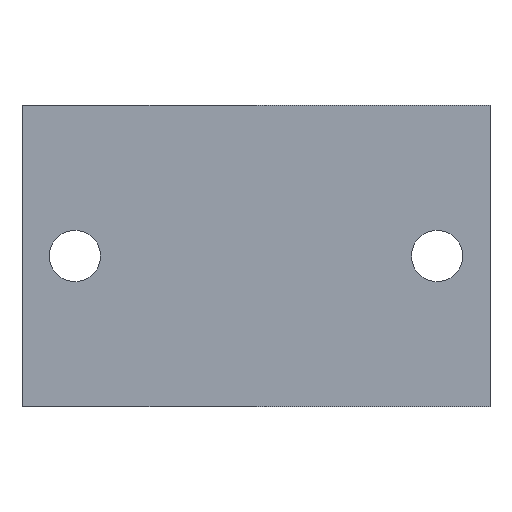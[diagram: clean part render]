
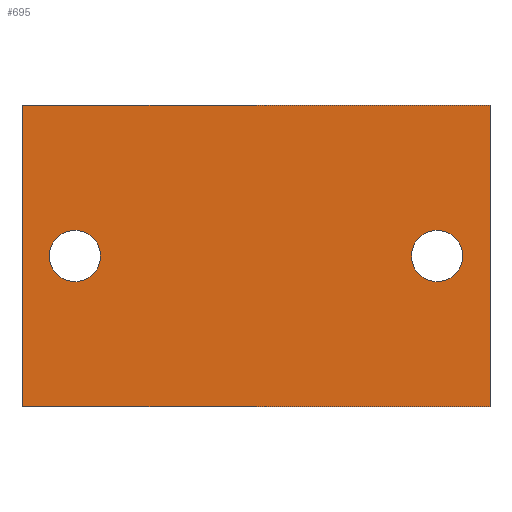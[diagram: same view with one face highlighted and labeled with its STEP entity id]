
A CAD part, front view. The second image highlights one B-rep face of the part: STEP entity #695.
In plain terms, the highlighted planar face has unit normal (0, -1, 0).
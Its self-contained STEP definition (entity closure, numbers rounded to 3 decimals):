
#15 = FACE_BOUND ( 'NONE', #586, .T. ) ;
#27 = CARTESIAN_POINT ( 'NONE',  ( -31., -27., 20. ) ) ;
#37 = CIRCLE ( 'NONE', #596, 3.4 ) ;
#45 = AXIS2_PLACEMENT_3D ( 'NONE', #612, #1201, #142 ) ;
#46 = LINE ( 'NONE', #1448, #486 ) ;
#62 = VERTEX_POINT ( 'NONE', #1163 ) ;
#65 = CARTESIAN_POINT ( 'NONE',  ( -31., -27., 20. ) ) ;
#68 = VECTOR ( 'NONE', #1308, 1000. ) ;
#72 = DIRECTION ( 'NONE',  ( 1., 0., 0. ) ) ;
#88 = CARTESIAN_POINT ( 'NONE',  ( -31., -27., -20. ) ) ;
#103 = DIRECTION ( 'NONE',  ( 0., 0., -1. ) ) ;
#120 = DIRECTION ( 'NONE',  ( 0., 0., 1. ) ) ;
#142 = DIRECTION ( 'NONE',  ( 0., 0., -1. ) ) ;
#160 = CARTESIAN_POINT ( 'NONE',  ( 31., -27., 20. ) ) ;
#230 = VERTEX_POINT ( 'NONE', #160 ) ;
#248 = DIRECTION ( 'NONE',  ( 0., 1., 0. ) ) ;
#276 = VERTEX_POINT ( 'NONE', #508 ) ;
#286 = EDGE_CURVE ( 'NONE', #701, #917, #1167, .T. ) ;
#289 = EDGE_LOOP ( 'NONE', ( #1464, #1051, #449, #1499 ) ) ;
#319 = DIRECTION ( 'NONE',  ( 0., 0., -1. ) ) ;
#366 = FACE_BOUND ( 'NONE', #481, .T. ) ;
#389 = AXIS2_PLACEMENT_3D ( 'NONE', #646, #997, #763 ) ;
#402 = EDGE_CURVE ( 'NONE', #62, #276, #37, .T. ) ;
#449 = ORIENTED_EDGE ( 'NONE', *, *, #712, .F. ) ;
#479 = DIRECTION ( 'NONE',  ( 0., -1., 0. ) ) ;
#481 = EDGE_LOOP ( 'NONE', ( #1011, #564 ) ) ;
#486 = VECTOR ( 'NONE', #72, 1000. ) ;
#508 = CARTESIAN_POINT ( 'NONE',  ( -24., -27., 3.4 ) ) ;
#562 = EDGE_CURVE ( 'NONE', #230, #1009, #782, .T. ) ;
#564 = ORIENTED_EDGE ( 'NONE', *, *, #961, .F. ) ;
#586 = EDGE_LOOP ( 'NONE', ( #1313, #1356 ) ) ;
#596 = AXIS2_PLACEMENT_3D ( 'NONE', #1014, #1031, #319 ) ;
#598 = CARTESIAN_POINT ( 'NONE',  ( 24., -27., 0. ) ) ;
#612 = CARTESIAN_POINT ( 'NONE',  ( -24., -27., 0. ) ) ;
#646 = CARTESIAN_POINT ( 'NONE',  ( 24., -27., 0. ) ) ;
#652 = VERTEX_POINT ( 'NONE', #88 ) ;
#695 = ADVANCED_FACE ( 'NONE', ( #366, #15, #723 ), #1174, .F. ) ;
#701 = VERTEX_POINT ( 'NONE', #949 ) ;
#704 = CARTESIAN_POINT ( 'NONE',  ( 31., -27., -20. ) ) ;
#712 = EDGE_CURVE ( 'NONE', #1326, #230, #1301, .T. ) ;
#715 = EDGE_CURVE ( 'NONE', #917, #701, #1224, .T. ) ;
#717 = DIRECTION ( 'NONE',  ( 0., 0., -1. ) ) ;
#723 = FACE_OUTER_BOUND ( 'NONE', #289, .T. ) ;
#763 = DIRECTION ( 'NONE',  ( 0., 0., -1. ) ) ;
#782 = LINE ( 'NONE', #1152, #1060 ) ;
#828 = EDGE_CURVE ( 'NONE', #1326, #652, #864, .T. ) ;
#864 = LINE ( 'NONE', #65, #1343 ) ;
#917 = VERTEX_POINT ( 'NONE', #1494 ) ;
#949 = CARTESIAN_POINT ( 'NONE',  ( 24., -27., 3.4 ) ) ;
#961 = EDGE_CURVE ( 'NONE', #276, #62, #1003, .T. ) ;
#997 = DIRECTION ( 'NONE',  ( 0., -1., 0. ) ) ;
#1003 = CIRCLE ( 'NONE', #45, 3.4 ) ;
#1009 = VERTEX_POINT ( 'NONE', #704 ) ;
#1011 = ORIENTED_EDGE ( 'NONE', *, *, #402, .F. ) ;
#1014 = CARTESIAN_POINT ( 'NONE',  ( -24., -27., 0. ) ) ;
#1031 = DIRECTION ( 'NONE',  ( 0., -1., 0. ) ) ;
#1051 = ORIENTED_EDGE ( 'NONE', *, *, #562, .F. ) ;
#1060 = VECTOR ( 'NONE', #103, 1000. ) ;
#1100 = EDGE_CURVE ( 'NONE', #652, #1009, #46, .T. ) ;
#1152 = CARTESIAN_POINT ( 'NONE',  ( 31., -27., 20. ) ) ;
#1163 = CARTESIAN_POINT ( 'NONE',  ( -24., -27., -3.4 ) ) ;
#1167 = CIRCLE ( 'NONE', #389, 3.4 ) ;
#1174 = PLANE ( 'NONE',  #1394 ) ;
#1201 = DIRECTION ( 'NONE',  ( 0., -1., 0. ) ) ;
#1224 = CIRCLE ( 'NONE', #1252, 3.4 ) ;
#1252 = AXIS2_PLACEMENT_3D ( 'NONE', #598, #479, #717 ) ;
#1301 = LINE ( 'NONE', #27, #68 ) ;
#1308 = DIRECTION ( 'NONE',  ( 1., 0., 0. ) ) ;
#1313 = ORIENTED_EDGE ( 'NONE', *, *, #715, .F. ) ;
#1315 = DIRECTION ( 'NONE',  ( 0., 0., -1. ) ) ;
#1326 = VERTEX_POINT ( 'NONE', #1436 ) ;
#1343 = VECTOR ( 'NONE', #1315, 1000. ) ;
#1356 = ORIENTED_EDGE ( 'NONE', *, *, #286, .F. ) ;
#1394 = AXIS2_PLACEMENT_3D ( 'NONE', #1411, #248, #120 ) ;
#1411 = CARTESIAN_POINT ( 'NONE',  ( -31., -27., 20. ) ) ;
#1436 = CARTESIAN_POINT ( 'NONE',  ( -31., -27., 20. ) ) ;
#1448 = CARTESIAN_POINT ( 'NONE',  ( -31., -27., -20. ) ) ;
#1464 = ORIENTED_EDGE ( 'NONE', *, *, #1100, .T. ) ;
#1494 = CARTESIAN_POINT ( 'NONE',  ( 24., -27., -3.4 ) ) ;
#1499 = ORIENTED_EDGE ( 'NONE', *, *, #828, .T. ) ;
